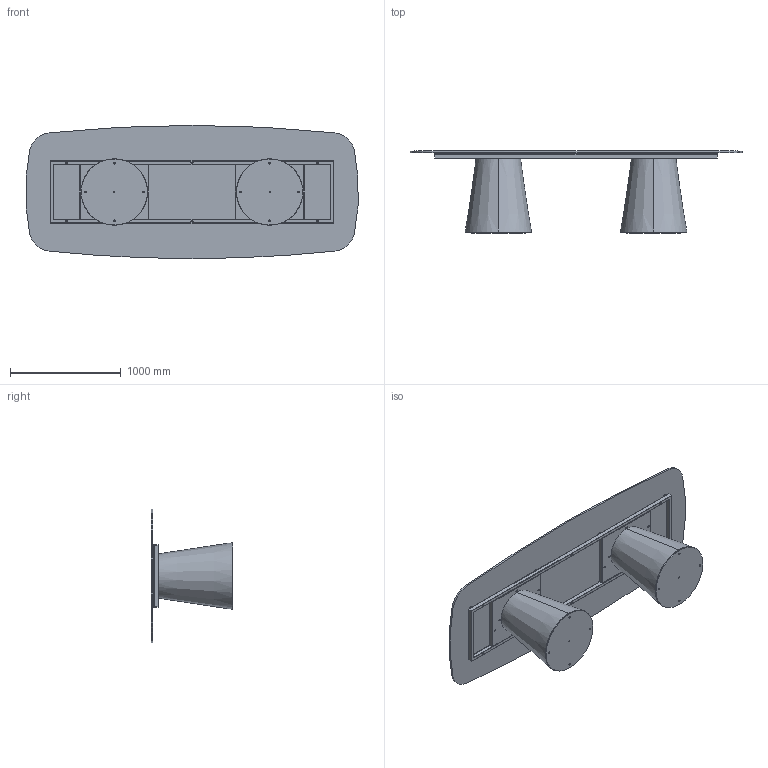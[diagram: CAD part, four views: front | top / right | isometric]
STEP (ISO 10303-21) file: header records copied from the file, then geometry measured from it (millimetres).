
FILE_DESCRIPTION (( 'STEP AP203' ), '1' );
FILE_NAME ('TO44G_Teo_300x120_Glass Shaped.STEP', '2024-08-02T09:39:29', ( '' ), ( '' ), 'SwSTEP 2.0', 'SolidWorks 2022', '' );
FILE_SCHEMA (( 'CONFIG_CONTROL_DESIGN' ));
Length unit declared in the file: millimetre
Products named in the file (11): C4XCRXX-00-Piani Sagomati in Cristallo_3000 x 1200; TTAV03_02-06-VASSOIO IRRIGIDIMENTO TELAIO UNIVERSALE RETTANGOLARE; TEO000000PIA-00-TEO PIASTRA DI BASE IN METALLO GREZZO; COLLO TELAIO UNIVERSALE TTAV03 CON FERRAMENTA_MTG TOP CRISTALLO VERNICIATO-CERAMICA; 434070-00-PIEDINO TPV GOMMA NERO D. 30x8max18_filo estetico; TTAV03_01-06-RING TUBO TELAIO UNIVERSALE X TAVOLI 300-340cm; TO44G_Teo_300x120_Glass Shaped; BASE TED LEGNO CON ZAVORRA; TEO0000-00-TEO BASE LEGNO IMPIALLACCIATA LEVIGATO PRONTA X VERNICE; TTAV03-06-TELAIO UNIVERSALE X TAVOLI 300-340cm; M8xXXmm_hex_M8X20mm
Assembly tree (22 placements, depth 4):
  TO44G_Teo_300x120_Glass Shaped
    BASE TED LEGNO CON ZAVORRA  x2
      TEO000000PIA-00-TEO PIASTRA DI BASE IN METALLO GREZZO
      TEO0000-00-TEO BASE LEGNO IMPIALLACCIATA LEVIGATO PRONTA X VERNICE
      M8xXXmm_hex_M8X20mm
    COLLO TELAIO UNIVERSALE TTAV03 CON FERRAMENTA_MTG TOP CRISTALLO VERNICIATO-CERAMICA
      TTAV03-06-TELAIO UNIVERSALE X TAVOLI 300-340cm
        TTAV03_01-06-RING TUBO TELAIO UNIVERSALE X TAVOLI 300-340cm
        TTAV03_02-06-VASSOIO IRRIGIDIMENTO TELAIO UNIVERSALE RETTANGOLARE  x2
      434070-00-PIEDINO TPV GOMMA NERO D. 30x8max18_filo estetico  x8
    C4XCRXX-00-Piani Sagomati in Cristallo_3000 x 1200
Bounding box: 2991.72 x 738.19 x 1200 mm (x, y, z)
Volume: 110909305.3 mm3; surface area: 16468035.8 mm2
Topology: 32 solids, 32 shells, 863 faces, 1955 edges, 1146 vertices
Faces by surface type: plane 422, cylinder 281, cone 104, torus 48, sphere 8
Entity records: 12116 total; most frequent: DIRECTION 1957, CARTESIAN_POINT 1807, ORIENTED_EDGE 1734, EDGE_CURVE 867, AXIS2_PLACEMENT_3D 715, VERTEX_POINT 533, LINE 527, VECTOR 527
